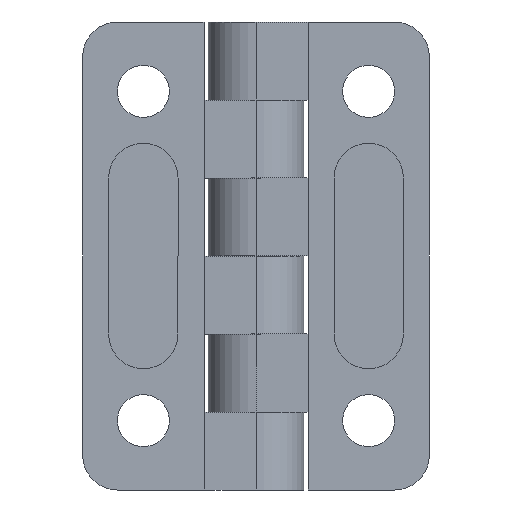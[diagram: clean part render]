
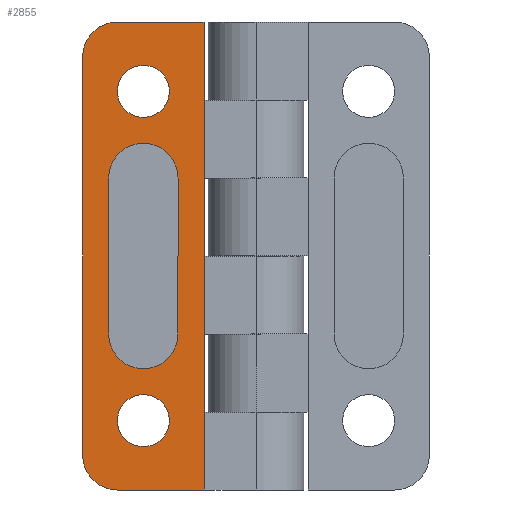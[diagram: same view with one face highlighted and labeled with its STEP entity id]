
A CAD part, front view. The second image highlights one B-rep face of the part: STEP entity #2855.
In plain terms, the highlighted planar face has unit normal (0, -1, 0).
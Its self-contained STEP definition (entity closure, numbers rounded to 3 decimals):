
#10 = DIRECTION ( 'NONE',  ( 0., 0., 1. ) ) ;
#26 = AXIS2_PLACEMENT_3D ( 'NONE', #3206, #1166, #3514 ) ;
#43 = DIRECTION ( 'NONE',  ( 0., 0., 1. ) ) ;
#81 = VERTEX_POINT ( 'NONE', #2602 ) ;
#99 = VERTEX_POINT ( 'NONE', #3589 ) ;
#141 = CARTESIAN_POINT ( 'NONE',  ( -17., -6., -9. ) ) ;
#243 = AXIS2_PLACEMENT_3D ( 'NONE', #491, #2846, #824 ) ;
#320 = VERTEX_POINT ( 'NONE', #3572 ) ;
#323 = VERTEX_POINT ( 'NONE', #3903 ) ;
#338 = VERTEX_POINT ( 'NONE', #1396 ) ;
#359 = DIRECTION ( 'NONE',  ( 0., 0., -1. ) ) ;
#383 = ORIENTED_EDGE ( 'NONE', *, *, #2100, .T. ) ;
#427 = CARTESIAN_POINT ( 'NONE',  ( -13., -6., 9. ) ) ;
#472 = DIRECTION ( 'NONE',  ( -1., 0., 0. ) ) ;
#474 = ORIENTED_EDGE ( 'NONE', *, *, #2840, .T. ) ;
#483 = AXIS2_PLACEMENT_3D ( 'NONE', #550, #2904, #879 ) ;
#491 = CARTESIAN_POINT ( 'NONE',  ( 0., -6., 27. ) ) ;
#539 = DIRECTION ( 'NONE',  ( 0., -1., 0. ) ) ;
#550 = CARTESIAN_POINT ( 'NONE',  ( -13., -6., -19. ) ) ;
#593 = FACE_BOUND ( 'NONE', #3600, .T. ) ;
#600 = AXIS2_PLACEMENT_3D ( 'NONE', #4094, #2058, #43 ) ;
#649 = ORIENTED_EDGE ( 'NONE', *, *, #1694, .T. ) ;
#667 = EDGE_CURVE ( 'NONE', #3617, #320, #2404, .T. ) ;
#731 = VECTOR ( 'NONE', #359, 1000. ) ;
#764 = DIRECTION ( 'NONE',  ( 1., 0., 0. ) ) ;
#813 = CARTESIAN_POINT ( 'NONE',  ( -13., -6., -22. ) ) ;
#824 = DIRECTION ( 'NONE',  ( 1., 0., 0. ) ) ;
#879 = DIRECTION ( 'NONE',  ( 0., 0., 1. ) ) ;
#964 = VECTOR ( 'NONE', #2809, 1000. ) ;
#1137 = CARTESIAN_POINT ( 'NONE',  ( -13., -6., 19. ) ) ;
#1156 = ORIENTED_EDGE ( 'NONE', *, *, #2893, .F. ) ;
#1158 = CIRCLE ( 'NONE', #1830, 4. ) ;
#1163 = FACE_BOUND ( 'NONE', #4310, .T. ) ;
#1166 = DIRECTION ( 'NONE',  ( 0., -1., 0. ) ) ;
#1229 = CARTESIAN_POINT ( 'NONE',  ( -6., -6., 27. ) ) ;
#1236 = EDGE_CURVE ( 'NONE', #2814, #81, #1158, .T. ) ;
#1240 = VECTOR ( 'NONE', #472, 1000. ) ;
#1251 = EDGE_CURVE ( 'NONE', #3415, #338, #2862, .T. ) ;
#1271 = CIRCLE ( 'NONE', #3716, 3. ) ;
#1334 = EDGE_CURVE ( 'NONE', #320, #99, #2543, .T. ) ;
#1396 = CARTESIAN_POINT ( 'NONE',  ( -16., -6., -27. ) ) ;
#1406 = EDGE_CURVE ( 'NONE', #3168, #338, #1826, .T. ) ;
#1449 = VERTEX_POINT ( 'NONE', #813 ) ;
#1491 = DIRECTION ( 'NONE',  ( 0., 0., 1. ) ) ;
#1498 = VECTOR ( 'NONE', #10, 1000. ) ;
#1597 = VERTEX_POINT ( 'NONE', #1229 ) ;
#1644 = EDGE_CURVE ( 'NONE', #99, #2007, #3872, .T. ) ;
#1649 = LINE ( 'NONE', #4251, #4239 ) ;
#1694 = EDGE_CURVE ( 'NONE', #1449, #2626, #3776, .T. ) ;
#1710 = CARTESIAN_POINT ( 'NONE',  ( -13., -6., 16. ) ) ;
#1724 = DIRECTION ( 'NONE',  ( 0., -1., 0. ) ) ;
#1794 = CARTESIAN_POINT ( 'NONE',  ( -16., -6., 27. ) ) ;
#1826 = LINE ( 'NONE', #2487, #1240 ) ;
#1830 = AXIS2_PLACEMENT_3D ( 'NONE', #2560, #539, #2898 ) ;
#1859 = DIRECTION ( 'NONE',  ( 0., 1., 0. ) ) ;
#1867 = ORIENTED_EDGE ( 'NONE', *, *, #1406, .F. ) ;
#1876 = ORIENTED_EDGE ( 'NONE', *, *, #2993, .F. ) ;
#1966 = LINE ( 'NONE', #2122, #964 ) ;
#1993 = CARTESIAN_POINT ( 'NONE',  ( -6., -6., -27. ) ) ;
#2007 = VERTEX_POINT ( 'NONE', #3331 ) ;
#2058 = DIRECTION ( 'NONE',  ( 0., 1., 0. ) ) ;
#2100 = EDGE_CURVE ( 'NONE', #3387, #323, #2188, .T. ) ;
#2122 = CARTESIAN_POINT ( 'NONE',  ( 0., -6., 27. ) ) ;
#2151 = ORIENTED_EDGE ( 'NONE', *, *, #1236, .T. ) ;
#2176 = DIRECTION ( 'NONE',  ( 0., 0., -1. ) ) ;
#2188 = CIRCLE ( 'NONE', #600, 3. ) ;
#2219 = DIRECTION ( 'NONE',  ( 0., 0., -1. ) ) ;
#2227 = EDGE_CURVE ( 'NONE', #1597, #2814, #1966, .T. ) ;
#2290 = AXIS2_PLACEMENT_3D ( 'NONE', #3741, #1724, #4096 ) ;
#2404 = LINE ( 'NONE', #3709, #1498 ) ;
#2487 = CARTESIAN_POINT ( 'NONE',  ( 0., -6., -27. ) ) ;
#2503 = ORIENTED_EDGE ( 'NONE', *, *, #2227, .T. ) ;
#2507 = PLANE ( 'NONE',  #243 ) ;
#2517 = LINE ( 'NONE', #3718, #731 ) ;
#2543 = CIRCLE ( 'NONE', #2969, 4. ) ;
#2560 = CARTESIAN_POINT ( 'NONE',  ( -16., -6., 23. ) ) ;
#2568 = ORIENTED_EDGE ( 'NONE', *, *, #3231, .T. ) ;
#2602 = CARTESIAN_POINT ( 'NONE',  ( -20., -6., 23. ) ) ;
#2604 = ORIENTED_EDGE ( 'NONE', *, *, #1334, .F. ) ;
#2626 = VERTEX_POINT ( 'NONE', #3383 ) ;
#2649 = CIRCLE ( 'NONE', #483, 3. ) ;
#2693 = ORIENTED_EDGE ( 'NONE', *, *, #2977, .T. ) ;
#2788 = DIRECTION ( 'NONE',  ( 0., -1., 0. ) ) ;
#2809 = DIRECTION ( 'NONE',  ( -1., 0., 0. ) ) ;
#2814 = VERTEX_POINT ( 'NONE', #1794 ) ;
#2840 = EDGE_CURVE ( 'NONE', #323, #3387, #1271, .T. ) ;
#2846 = DIRECTION ( 'NONE',  ( 0., -1., 0. ) ) ;
#2855 = ADVANCED_FACE ( 'NONE', ( #2968, #1163, #593, #3753 ), #2507, .T. ) ;
#2862 = CIRCLE ( 'NONE', #2290, 4. ) ;
#2864 = CIRCLE ( 'NONE', #26, 4. ) ;
#2893 = EDGE_CURVE ( 'NONE', #2007, #3617, #2864, .T. ) ;
#2898 = DIRECTION ( 'NONE',  ( 1., 0., 0. ) ) ;
#2904 = DIRECTION ( 'NONE',  ( 0., 1., 0. ) ) ;
#2968 = FACE_BOUND ( 'NONE', #3800, .T. ) ;
#2969 = AXIS2_PLACEMENT_3D ( 'NONE', #427, #2788, #764 ) ;
#2977 = EDGE_CURVE ( 'NONE', #2626, #1449, #2649, .T. ) ;
#2985 = VECTOR ( 'NONE', #2176, 1000. ) ;
#2993 = EDGE_CURVE ( 'NONE', #1597, #3168, #1649, .T. ) ;
#3078 = CARTESIAN_POINT ( 'NONE',  ( -20., -6., -23. ) ) ;
#3168 = VERTEX_POINT ( 'NONE', #1993 ) ;
#3206 = CARTESIAN_POINT ( 'NONE',  ( -13., -6., -9. ) ) ;
#3231 = EDGE_CURVE ( 'NONE', #81, #3415, #2517, .T. ) ;
#3331 = CARTESIAN_POINT ( 'NONE',  ( -17., -6., -9. ) ) ;
#3348 = EDGE_LOOP ( 'NONE', ( #2568, #4228, #1867, #1876, #2503, #2151 ) ) ;
#3383 = CARTESIAN_POINT ( 'NONE',  ( -13., -6., -16. ) ) ;
#3387 = VERTEX_POINT ( 'NONE', #1710 ) ;
#3415 = VERTEX_POINT ( 'NONE', #3078 ) ;
#3482 = ORIENTED_EDGE ( 'NONE', *, *, #667, .F. ) ;
#3492 = DIRECTION ( 'NONE',  ( 0., 1., 0. ) ) ;
#3514 = DIRECTION ( 'NONE',  ( 1., 0., 0. ) ) ;
#3520 = CARTESIAN_POINT ( 'NONE',  ( -9., -6., -9. ) ) ;
#3572 = CARTESIAN_POINT ( 'NONE',  ( -9., -6., 9. ) ) ;
#3589 = CARTESIAN_POINT ( 'NONE',  ( -17., -6., 9. ) ) ;
#3600 = EDGE_LOOP ( 'NONE', ( #1156, #4088, #2604, #3482 ) ) ;
#3617 = VERTEX_POINT ( 'NONE', #3520 ) ;
#3709 = CARTESIAN_POINT ( 'NONE',  ( -9., -6., -9. ) ) ;
#3716 = AXIS2_PLACEMENT_3D ( 'NONE', #1137, #3492, #1491 ) ;
#3718 = CARTESIAN_POINT ( 'NONE',  ( -20., -6., 27. ) ) ;
#3741 = CARTESIAN_POINT ( 'NONE',  ( -16., -6., -23. ) ) ;
#3753 = FACE_OUTER_BOUND ( 'NONE', #3348, .T. ) ;
#3776 = CIRCLE ( 'NONE', #4010, 3. ) ;
#3800 = EDGE_LOOP ( 'NONE', ( #474, #383 ) ) ;
#3872 = LINE ( 'NONE', #141, #2985 ) ;
#3875 = CARTESIAN_POINT ( 'NONE',  ( -13., -6., -19. ) ) ;
#3903 = CARTESIAN_POINT ( 'NONE',  ( -13., -6., 22. ) ) ;
#4010 = AXIS2_PLACEMENT_3D ( 'NONE', #3875, #1859, #4230 ) ;
#4088 = ORIENTED_EDGE ( 'NONE', *, *, #1644, .F. ) ;
#4094 = CARTESIAN_POINT ( 'NONE',  ( -13., -6., 19. ) ) ;
#4096 = DIRECTION ( 'NONE',  ( 1., 0., 0. ) ) ;
#4228 = ORIENTED_EDGE ( 'NONE', *, *, #1251, .T. ) ;
#4230 = DIRECTION ( 'NONE',  ( 0., 0., 1. ) ) ;
#4239 = VECTOR ( 'NONE', #2219, 1000. ) ;
#4251 = CARTESIAN_POINT ( 'NONE',  ( -6., -6., 27. ) ) ;
#4310 = EDGE_LOOP ( 'NONE', ( #2693, #649 ) ) ;
